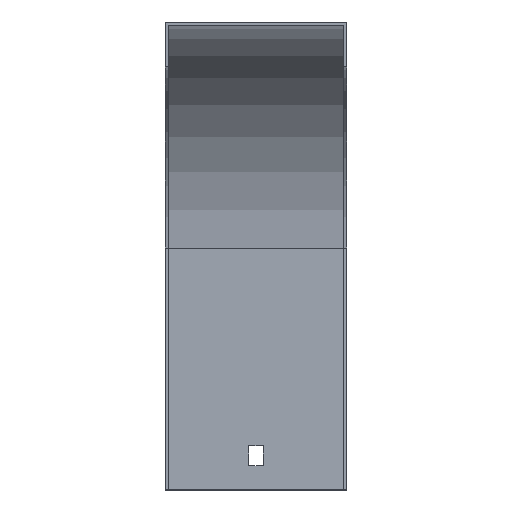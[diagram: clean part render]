
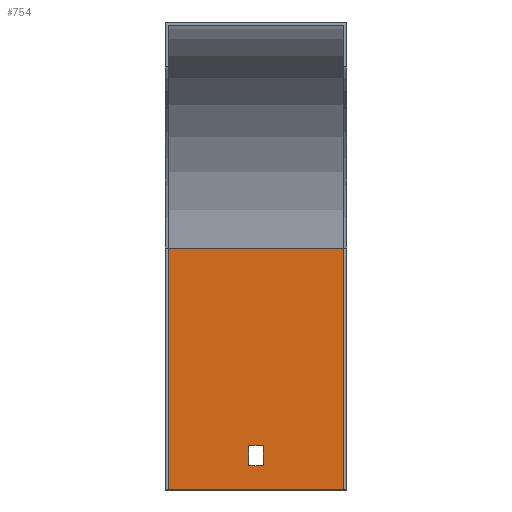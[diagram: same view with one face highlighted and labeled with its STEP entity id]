
A CAD part, top view. The second image highlights one B-rep face of the part: STEP entity #754.
In plain terms, the highlighted planar face has unit normal (0, 0, 1).
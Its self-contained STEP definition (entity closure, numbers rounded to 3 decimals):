
#9 = VERTEX_POINT ( 'NONE', #677 ) ;
#17 = VECTOR ( 'NONE', #456, 1000. ) ;
#18 = FACE_BOUND ( 'NONE', #583, .T. ) ;
#26 = LINE ( 'NONE', #564, #336 ) ;
#31 = LINE ( 'NONE', #449, #590 ) ;
#37 = EDGE_CURVE ( 'NONE', #784, #9, #699, .T. ) ;
#40 = ORIENTED_EDGE ( 'NONE', *, *, #363, .T. ) ;
#84 = ORIENTED_EDGE ( 'NONE', *, *, #37, .T. ) ;
#95 = VECTOR ( 'NONE', #693, 1000. ) ;
#145 = ORIENTED_EDGE ( 'NONE', *, *, #367, .T. ) ;
#150 = PLANE ( 'NONE',  #445 ) ;
#155 = LINE ( 'NONE', #425, #95 ) ;
#162 = CARTESIAN_POINT ( 'NONE',  ( 3.25, -101.5, -209. ) ) ;
#164 = EDGE_CURVE ( 'NONE', #289, #178, #26, .T. ) ;
#178 = VERTEX_POINT ( 'NONE', #625 ) ;
#188 = LINE ( 'NONE', #226, #411 ) ;
#206 = VECTOR ( 'NONE', #758, 1000. ) ;
#209 = EDGE_CURVE ( 'NONE', #784, #251, #403, .T. ) ;
#213 = CARTESIAN_POINT ( 'NONE',  ( 41., -101.5, -209. ) ) ;
#226 = CARTESIAN_POINT ( 'NONE',  ( 41., -190.5, -209. ) ) ;
#235 = LINE ( 'NONE', #162, #306 ) ;
#244 = CARTESIAN_POINT ( 'NONE',  ( 39.5, -101.5, -209. ) ) ;
#251 = VERTEX_POINT ( 'NONE', #853 ) ;
#285 = CARTESIAN_POINT ( 'NONE',  ( -3.25, -190.5, -209. ) ) ;
#289 = VERTEX_POINT ( 'NONE', #597 ) ;
#299 = FACE_OUTER_BOUND ( 'NONE', #716, .T. ) ;
#300 = LINE ( 'NONE', #768, #669 ) ;
#305 = ORIENTED_EDGE ( 'NONE', *, *, #164, .T. ) ;
#306 = VECTOR ( 'NONE', #616, 1000. ) ;
#320 = CARTESIAN_POINT ( 'NONE',  ( 41., -210.5, -209. ) ) ;
#331 = ORIENTED_EDGE ( 'NONE', *, *, #697, .F. ) ;
#336 = VECTOR ( 'NONE', #555, 1000. ) ;
#363 = EDGE_CURVE ( 'NONE', #9, #400, #300, .T. ) ;
#366 = ORIENTED_EDGE ( 'NONE', *, *, #518, .T. ) ;
#367 = EDGE_CURVE ( 'NONE', #655, #289, #235, .T. ) ;
#400 = VERTEX_POINT ( 'NONE', #440 ) ;
#403 = LINE ( 'NONE', #320, #17 ) ;
#411 = VECTOR ( 'NONE', #752, 1000. ) ;
#424 = EDGE_CURVE ( 'NONE', #178, #748, #31, .T. ) ;
#425 = CARTESIAN_POINT ( 'NONE',  ( -39.5, -101.5, -209. ) ) ;
#440 = CARTESIAN_POINT ( 'NONE',  ( -39.5, -101.5, -209. ) ) ;
#445 = AXIS2_PLACEMENT_3D ( 'NONE', #213, #552, #489 ) ;
#449 = CARTESIAN_POINT ( 'NONE',  ( -3.25, -101.5, -209. ) ) ;
#456 = DIRECTION ( 'NONE',  ( -1., 0., 0. ) ) ;
#489 = DIRECTION ( 'NONE',  ( 1., 0., 0. ) ) ;
#518 = EDGE_CURVE ( 'NONE', #748, #655, #188, .T. ) ;
#552 = DIRECTION ( 'NONE',  ( 0., 0., 1. ) ) ;
#555 = DIRECTION ( 'NONE',  ( -1., 0., 0. ) ) ;
#564 = CARTESIAN_POINT ( 'NONE',  ( 41., -199.5, -209. ) ) ;
#583 = EDGE_LOOP ( 'NONE', ( #305, #830, #366, #145 ) ) ;
#590 = VECTOR ( 'NONE', #619, 1000. ) ;
#597 = CARTESIAN_POINT ( 'NONE',  ( 3.25, -199.5, -209. ) ) ;
#616 = DIRECTION ( 'NONE',  ( 0., -1., 0. ) ) ;
#619 = DIRECTION ( 'NONE',  ( 0., 1., 0. ) ) ;
#625 = CARTESIAN_POINT ( 'NONE',  ( -3.25, -199.5, -209. ) ) ;
#647 = CARTESIAN_POINT ( 'NONE',  ( 3.25, -190.5, -209. ) ) ;
#655 = VERTEX_POINT ( 'NONE', #647 ) ;
#669 = VECTOR ( 'NONE', #822, 1000. ) ;
#677 = CARTESIAN_POINT ( 'NONE',  ( 39.5, -101.5, -209. ) ) ;
#693 = DIRECTION ( 'NONE',  ( 0., 1., 0. ) ) ;
#696 = CARTESIAN_POINT ( 'NONE',  ( 39.5, -210.5, -209. ) ) ;
#697 = EDGE_CURVE ( 'NONE', #251, #400, #155, .T. ) ;
#699 = LINE ( 'NONE', #244, #206 ) ;
#716 = EDGE_LOOP ( 'NONE', ( #331, #796, #84, #40 ) ) ;
#748 = VERTEX_POINT ( 'NONE', #285 ) ;
#752 = DIRECTION ( 'NONE',  ( 1., 0., 0. ) ) ;
#754 = ADVANCED_FACE ( 'NONE', ( #299, #18 ), #150, .T. ) ;
#758 = DIRECTION ( 'NONE',  ( 0., 1., 0. ) ) ;
#768 = CARTESIAN_POINT ( 'NONE',  ( 41., -101.5, -209. ) ) ;
#784 = VERTEX_POINT ( 'NONE', #696 ) ;
#796 = ORIENTED_EDGE ( 'NONE', *, *, #209, .F. ) ;
#822 = DIRECTION ( 'NONE',  ( -1., 0., 0. ) ) ;
#830 = ORIENTED_EDGE ( 'NONE', *, *, #424, .T. ) ;
#853 = CARTESIAN_POINT ( 'NONE',  ( -39.5, -210.5, -209. ) ) ;
